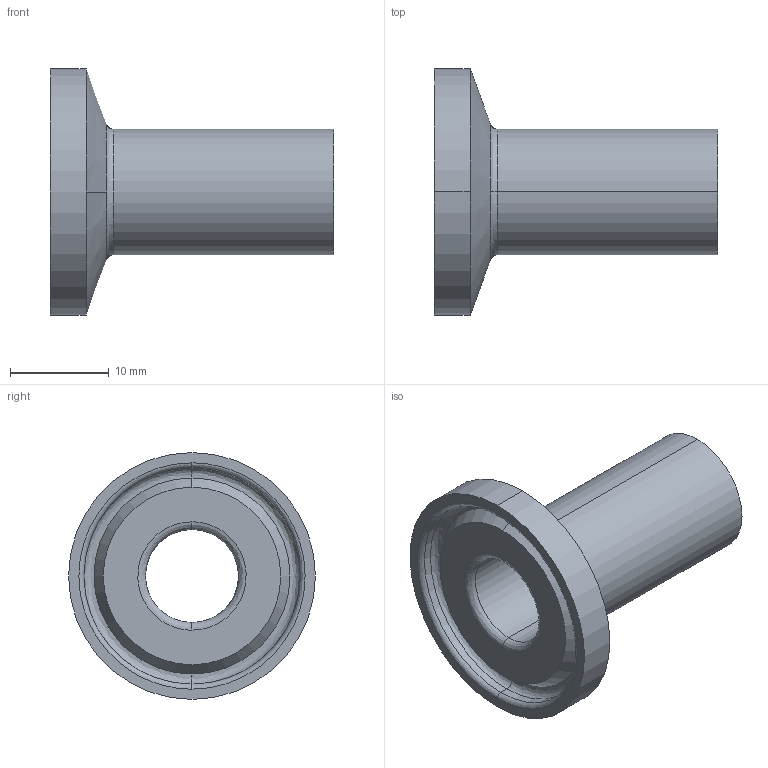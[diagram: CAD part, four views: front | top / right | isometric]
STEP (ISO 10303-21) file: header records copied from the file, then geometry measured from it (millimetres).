
FILE_DESCRIPTION (( 'STEP AP214' ), '1' );
FILE_NAME ('TEG14BM76L.5.STEP', '2016-05-23T04:03:05', ( 'eran' ), ( '' ), 'SwSTEP 2.0', 'SolidWorks 2016', '' );
FILE_SCHEMA (( 'AUTOMOTIVE_DESIGN' ));
Length unit declared in the file: millimetre
Products named in the file (1): TEG14BM76L.5
Bounding box: 28.7 x 24.99 x 24.99 mm (x, y, z)
Volume: 2961.2 mm3; surface area: 3022.5 mm2
Topology: 1 solids, 1 shells, 23 faces, 50 edges, 30 vertices
Faces by surface type: bspline 8, cylinder 8, cone 4, plane 3
Entity records: 764 total; most frequent: CARTESIAN_POINT 236, DIRECTION 112, ORIENTED_EDGE 100, AXIS2_PLACEMENT_3D 50, EDGE_CURVE 50, CIRCLE 34, VERTEX_POINT 30, EDGE_LOOP 26
